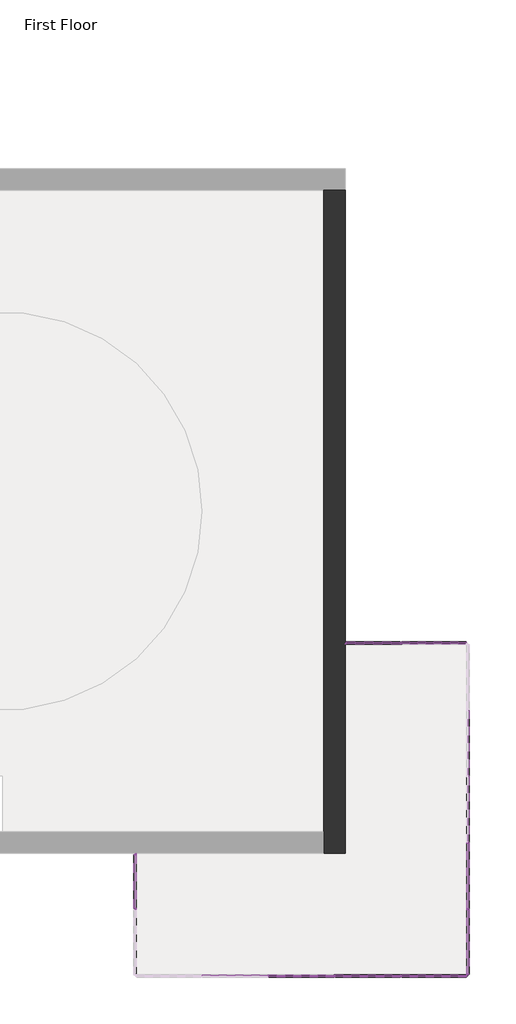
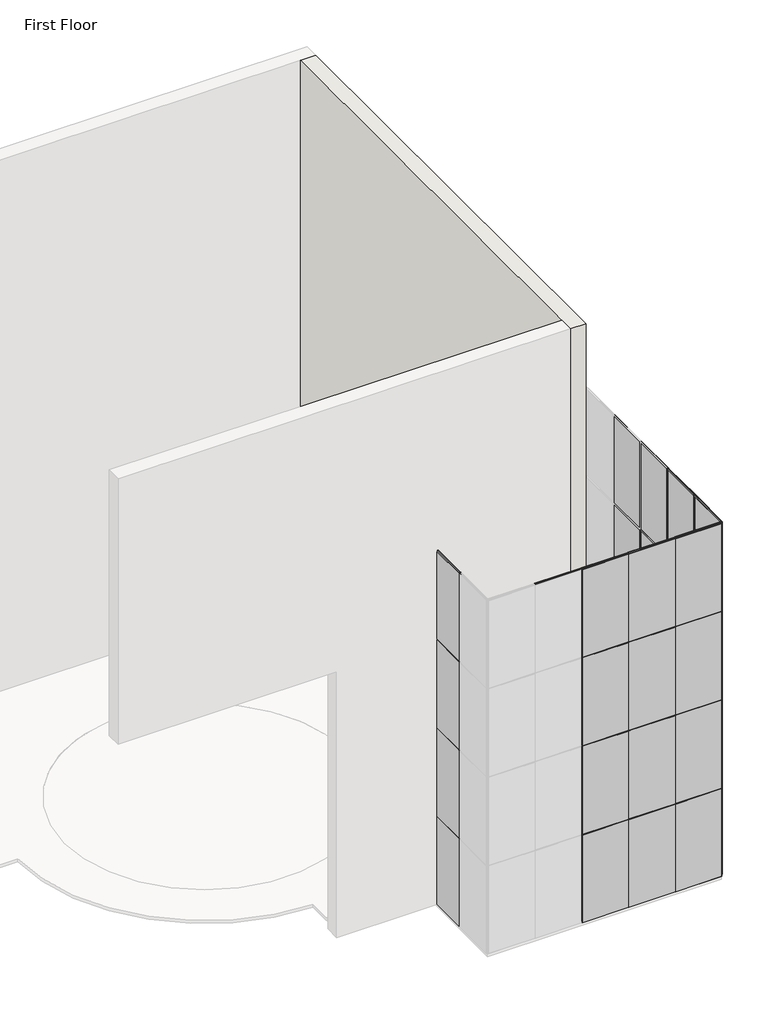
# One storey, part 2 of 4: 83 members, 40 plates, 1 wall.
"""IFC4 building model written with IfcOpenShell, lengths in millimetres."""

from ifc_helpers import new_model, si_unit, origin, place, context, project, spatial, faceted_brep, transform, mapped, element, save
from components import member_40ce1a5c, member_5e617a80, member_0d8d9af5, member_74941792, member_cbdb9076, member_7e523723, member_9fd3d903, member_6604d1e0, member_e0356dda, member_be0b070d, system_panel_glazed_9b7d687a, system_panel_glazed_3ccd4ad1, system_panel_glazed_9a901b4a, system_panel_glazed_ee91e337, system_panel_glazed_2d5e1d3d, system_panel_glazed_37964ea6, system_panel_glazed_a669fc9f, system_panel_glazed_51c864c8

model = new_model("IFC4")

# Units and contexts
model_context = context("Model", 3, world=origin())
ifc_project = project(units=[si_unit("LENGTHUNIT", "METRE", prefix="MILLI")], contexts=[model_context])

# Site, building, storey
site = spatial("IfcSite", under=ifc_project)
building = spatial("IfcBuilding", under=site)
storey = spatial("IfcBuildingStorey", under=building, Name="First Floor", Elevation=0.0)

# Members
placement = place(None, origin())
member_shape = member_40ce1a5c(model_context)
element("IfcMember", 1, ObjectType="Rectangular Mullion : 1\" Square", at=placement, inside=storey, context=model_context, shape_type="MappedRepresentation", body=[
    mapped(member_shape, transform((5418.7693843, -3733.9860776, 3048.0), x_axis=(0.0, 0.0, 1.0), y_axis=(0.0, 1.0, 0.0), z_axis=(-1.0, 0.0, 0.0))),
])
element("IfcMember", 2, ObjectType="Rectangular Mullion : 1\" Square", at=placement, inside=storey, context=model_context, shape_type="MappedRepresentation", body=[
    mapped(member_shape, transform((5418.7693843, -3733.9860776, 6096.0), x_axis=(0.0, 0.0, 1.0), y_axis=(0.0, 1.0, 0.0), z_axis=(-1.0, 0.0, 0.0))),
])
element("IfcMember", 3, ObjectType="Rectangular Mullion : 1\" Square", at=placement, inside=storey, context=model_context, shape_type="MappedRepresentation", body=[
    mapped(member_shape, transform((5418.7693843, -3733.9860776, 9144.0), x_axis=(0.0, 0.0, 1.0), y_axis=(0.0, 1.0, 0.0), z_axis=(-1.0, 0.0, 0.0))),
])
member_2_shape = member_5e617a80(model_context)
element("IfcMember", 4, ObjectType="Rectangular Mullion : 1\" Square", at=placement, inside=storey, context=model_context, shape_type="MappedRepresentation", body=[
    mapped(member_2_shape, transform((8171.4943843, -11353.9860776, 3048.0), x_axis=(0.0, 0.0, 1.0), y_axis=(0.0, -1.0, 0.0), z_axis=(1.0, 0.0, 0.0))),
])
element("IfcMember", 5, ObjectType="Rectangular Mullion : 1\" Square", at=placement, inside=storey, context=model_context, shape_type="MappedRepresentation", body=[
    mapped(member_2_shape, transform((8171.4943843, -11353.9860776, 6096.0), x_axis=(0.0, 0.0, 1.0), y_axis=(0.0, -1.0, 0.0), z_axis=(1.0, 0.0, 0.0))),
])
element("IfcMember", 6, ObjectType="Rectangular Mullion : 1\" Square", at=placement, inside=storey, context=model_context, shape_type="MappedRepresentation", body=[
    mapped(member_2_shape, transform((8171.4943843, -11353.9860776, 9144.0), x_axis=(0.0, 0.0, 1.0), y_axis=(0.0, -1.0, 0.0), z_axis=(1.0, 0.0, 0.0))),
])
element("IfcMember", 7, ObjectType="Rectangular Mullion : 1\" Square", at=placement, inside=storey, context=model_context, shape_type="MappedRepresentation", body=[
    mapped(member_2_shape, transform((8196.8943843, -9842.6860776, 3048.0), x_axis=(0.0, 0.0, 1.0), y_axis=(1.0, 0.0, 0.0), z_axis=(0.0, 1.0, 0.0))),
])
element("IfcMember", 8, ObjectType="Rectangular Mullion : 1\" Square", at=placement, inside=storey, context=model_context, shape_type="MappedRepresentation", body=[
    mapped(member_2_shape, transform((8196.8943843, -9842.6860776, 6096.0), x_axis=(0.0, 0.0, 1.0), y_axis=(1.0, 0.0, 0.0), z_axis=(0.0, 1.0, 0.0))),
])
element("IfcMember", 9, ObjectType="Rectangular Mullion : 1\" Square", at=placement, inside=storey, context=model_context, shape_type="MappedRepresentation", body=[
    mapped(member_2_shape, transform((8196.8943843, -9842.6860776, 9144.0), x_axis=(0.0, 0.0, 1.0), y_axis=(1.0, 0.0, 0.0), z_axis=(0.0, 1.0, 0.0))),
])
element("IfcMember", 10, ObjectType="Rectangular Mullion : 1\" Square", at=placement, inside=storey, context=model_context, shape_type="MappedRepresentation", body=[
    mapped(member_2_shape, transform((6685.5943843, -3733.9860776, 3048.0), x_axis=(0.0, 0.0, 1.0), y_axis=(0.0, 1.0, 0.0), z_axis=(-1.0, 0.0, 0.0))),
])
element("IfcMember", 11, ObjectType="Rectangular Mullion : 1\" Square", at=placement, inside=storey, context=model_context, shape_type="MappedRepresentation", body=[
    mapped(member_2_shape, transform((6685.5943843, -3733.9860776, 6096.0), x_axis=(0.0, 0.0, 1.0), y_axis=(0.0, 1.0, 0.0), z_axis=(-1.0, 0.0, 0.0))),
])
element("IfcMember", 12, ObjectType="Rectangular Mullion : 1\" Square", at=placement, inside=storey, context=model_context, shape_type="MappedRepresentation", body=[
    mapped(member_2_shape, transform((6685.5943843, -3733.9860776, 9144.0), x_axis=(0.0, 0.0, 1.0), y_axis=(0.0, 1.0, 0.0), z_axis=(-1.0, 0.0, 0.0))),
])
member_3_shape = member_0d8d9af5(model_context)
element("IfcMember", 13, ObjectType="Rectangular Mullion : 1\" Square", at=placement, inside=storey, context=model_context, shape_type="MappedRepresentation", body=[
    mapped(member_3_shape, transform((6660.1943843, -3733.9860776, 0.0), x_axis=(0.0, 0.0, -1.0), y_axis=(0.0, 1.0, 0.0), z_axis=(1.0, 0.0, 0.0))),
])
member_4_shape = member_74941792(model_context)
element("IfcMember", 14, ObjectType="Rectangular Mullion : 1\" Square", at=placement, inside=storey, context=model_context, shape_type="MappedRepresentation", body=[
    mapped(member_4_shape, transform((8171.4943843, -11353.9860776, 12192.0), x_axis=(0.0, 0.0, 1.0), y_axis=(0.0, -1.0, 0.0), z_axis=(1.0, 0.0, 0.0))),
])
element("IfcMember", 15, ObjectType="Rectangular Mullion : 1\" Square", at=placement, inside=storey, context=model_context, shape_type="MappedRepresentation", body=[
    mapped(member_4_shape, transform((8196.8943843, -9842.6860776, 12192.0), x_axis=(0.0, 0.0, 1.0), y_axis=(1.0, 0.0, 0.0), z_axis=(0.0, 1.0, 0.0))),
])
element("IfcMember", 16, ObjectType="Rectangular Mullion : 1\" Square", at=placement, inside=storey, context=model_context, shape_type="MappedRepresentation", body=[
    mapped(member_4_shape, transform((6685.5943843, -3733.9860776, 12192.0), x_axis=(0.0, 0.0, 1.0), y_axis=(0.0, 1.0, 0.0), z_axis=(-1.0, 0.0, 0.0))),
])
member_5_shape = member_cbdb9076(model_context)
element("IfcMember", 17, ObjectType="Rectangular Mullion : 1\" Square", at=placement, inside=storey, context=model_context, shape_type="MappedRepresentation", body=[
    mapped(member_5_shape, transform((576.8943843, -9826.8110776, 3048.0), x_axis=(0.0, -1.0, 0.0), y_axis=(-1.0, 0.0, 0.0), z_axis=(0.0, 0.0, -1.0))),
])
element("IfcMember", 18, ObjectType="Rectangular Mullion : 1\" Square", at=placement, inside=storey, context=model_context, shape_type="MappedRepresentation", body=[
    mapped(member_5_shape, transform((576.8943843, -9826.8110776, 6096.0), x_axis=(0.0, -1.0, 0.0), y_axis=(-1.0, 0.0, 0.0), z_axis=(0.0, 0.0, -1.0))),
])
element("IfcMember", 19, ObjectType="Rectangular Mullion : 1\" Square", at=placement, inside=storey, context=model_context, shape_type="MappedRepresentation", body=[
    mapped(member_5_shape, transform((5148.8943843, -11353.9860776, 3048.0), x_axis=(1.0, 0.0, 0.0), y_axis=(0.0, -1.0, 0.0), z_axis=(0.0, 0.0, -1.0))),
])
element("IfcMember", 20, ObjectType="Rectangular Mullion : 1\" Square", at=placement, inside=storey, context=model_context, shape_type="MappedRepresentation", body=[
    mapped(member_5_shape, transform((5148.8943843, -11353.9860776, 6096.0), x_axis=(1.0, 0.0, 0.0), y_axis=(0.0, -1.0, 0.0), z_axis=(0.0, 0.0, -1.0))),
])
element("IfcMember", 21, ObjectType="Rectangular Mullion : 1\" Square", at=placement, inside=storey, context=model_context, shape_type="MappedRepresentation", body=[
    mapped(member_5_shape, transform((6672.8943843, -11353.9860776, 3048.0), x_axis=(1.0, 0.0, 0.0), y_axis=(0.0, -1.0, 0.0), z_axis=(0.0, 0.0, -1.0))),
])
element("IfcMember", 22, ObjectType="Rectangular Mullion : 1\" Square", at=placement, inside=storey, context=model_context, shape_type="MappedRepresentation", body=[
    mapped(member_5_shape, transform((6672.8943843, -11353.9860776, 6096.0), x_axis=(1.0, 0.0, 0.0), y_axis=(0.0, -1.0, 0.0), z_axis=(0.0, 0.0, -1.0))),
])
element("IfcMember", 23, ObjectType="Rectangular Mullion : 1\" Square", at=placement, inside=storey, context=model_context, shape_type="MappedRepresentation", body=[
    mapped(member_5_shape, transform((8196.8943843, -8305.9860776, 6096.0), x_axis=(0.0, 1.0, 0.0), y_axis=(1.0, 0.0, 0.0), z_axis=(0.0, 0.0, -1.0))),
])
element("IfcMember", 24, ObjectType="Rectangular Mullion : 1\" Square", at=placement, inside=storey, context=model_context, shape_type="MappedRepresentation", body=[
    mapped(member_5_shape, transform((8196.8943843, -6781.9860776, 3048.0), x_axis=(0.0, 1.0, 0.0), y_axis=(1.0, 0.0, 0.0), z_axis=(0.0, 0.0, -1.0))),
])
element("IfcMember", 25, ObjectType="Rectangular Mullion : 1\" Square", at=placement, inside=storey, context=model_context, shape_type="MappedRepresentation", body=[
    mapped(member_5_shape, transform((8196.8943843, -6781.9860776, 6096.0), x_axis=(0.0, 1.0, 0.0), y_axis=(1.0, 0.0, 0.0), z_axis=(0.0, 0.0, -1.0))),
])
element("IfcMember", 26, ObjectType="Rectangular Mullion : 1\" Square", at=placement, inside=storey, context=model_context, shape_type="MappedRepresentation", body=[
    mapped(member_5_shape, transform((8196.8943843, -9829.9860776, 3048.0), x_axis=(0.0, 1.0, 0.0), y_axis=(1.0, 0.0, 0.0), z_axis=(0.0, 0.0, -1.0))),
])
element("IfcMember", 27, ObjectType="Rectangular Mullion : 1\" Square", at=placement, inside=storey, context=model_context, shape_type="MappedRepresentation", body=[
    mapped(member_5_shape, transform((8196.8943843, -9829.9860776, 6096.0), x_axis=(0.0, 1.0, 0.0), y_axis=(1.0, 0.0, 0.0), z_axis=(0.0, 0.0, -1.0))),
])
element("IfcMember", 28, ObjectType="Rectangular Mullion : 1\" Square", at=placement, inside=storey, context=model_context, shape_type="MappedRepresentation", body=[
    mapped(member_5_shape, transform((8196.8943843, -8305.9860776, 3048.0), x_axis=(0.0, 1.0, 0.0), y_axis=(1.0, 0.0, 0.0), z_axis=(0.0, 0.0, -1.0))),
])
element("IfcMember", 29, ObjectType="Rectangular Mullion : 1\" Square", at=placement, inside=storey, context=model_context, shape_type="MappedRepresentation", body=[
    mapped(member_5_shape, transform((6672.8943843, -3733.9860776, 3048.0), x_axis=(-1.0, 0.0, 0.0), y_axis=(0.0, 1.0, 0.0), z_axis=(0.0, 0.0, -1.0))),
])
element("IfcMember", 30, ObjectType="Rectangular Mullion : 1\" Square", at=placement, inside=storey, context=model_context, shape_type="MappedRepresentation", body=[
    mapped(member_5_shape, transform((6672.8943843, -3733.9860776, 6096.0), x_axis=(-1.0, 0.0, 0.0), y_axis=(0.0, 1.0, 0.0), z_axis=(0.0, 0.0, -1.0))),
])
element("IfcMember", 31, ObjectType="Rectangular Mullion : 1\" Square", at=placement, inside=storey, context=model_context, shape_type="MappedRepresentation", body=[
    mapped(member_5_shape, transform((576.8943843, -9826.8110776, 9144.0), x_axis=(0.0, -1.0, 0.0), y_axis=(-1.0, 0.0, 0.0), z_axis=(0.0, 0.0, -1.0))),
])
element("IfcMember", 32, ObjectType="Rectangular Mullion : 1\" Square", at=placement, inside=storey, context=model_context, shape_type="MappedRepresentation", body=[
    mapped(member_5_shape, transform((5148.8943843, -11353.9860776, 9144.0), x_axis=(1.0, 0.0, 0.0), y_axis=(0.0, -1.0, 0.0), z_axis=(0.0, 0.0, -1.0))),
])
element("IfcMember", 33, ObjectType="Rectangular Mullion : 1\" Square", at=placement, inside=storey, context=model_context, shape_type="MappedRepresentation", body=[
    mapped(member_5_shape, transform((6672.8943843, -11353.9860776, 9144.0), x_axis=(1.0, 0.0, 0.0), y_axis=(0.0, -1.0, 0.0), z_axis=(0.0, 0.0, -1.0))),
])
element("IfcMember", 34, ObjectType="Rectangular Mullion : 1\" Square", at=placement, inside=storey, context=model_context, shape_type="MappedRepresentation", body=[
    mapped(member_5_shape, transform((8196.8943843, -8305.9860776, 9144.0), x_axis=(0.0, 1.0, 0.0), y_axis=(1.0, 0.0, 0.0), z_axis=(0.0, 0.0, -1.0))),
])
element("IfcMember", 35, ObjectType="Rectangular Mullion : 1\" Square", at=placement, inside=storey, context=model_context, shape_type="MappedRepresentation", body=[
    mapped(member_5_shape, transform((8196.8943843, -9829.9860776, 9144.0), x_axis=(0.0, 1.0, 0.0), y_axis=(1.0, 0.0, 0.0), z_axis=(0.0, 0.0, -1.0))),
])
element("IfcMember", 36, ObjectType="Rectangular Mullion : 1\" Square", at=placement, inside=storey, context=model_context, shape_type="MappedRepresentation", body=[
    mapped(member_5_shape, transform((6672.8943843, -3733.9860776, 9144.0), x_axis=(-1.0, 0.0, 0.0), y_axis=(0.0, 1.0, 0.0), z_axis=(0.0, 0.0, -1.0))),
])
element("IfcMember", 37, ObjectType="Rectangular Mullion : 1\" Square", at=placement, inside=storey, context=model_context, shape_type="MappedRepresentation", body=[
    mapped(member_5_shape, transform((576.8943843, -9826.8110776, 0.0), x_axis=(0.0, -1.0, 0.0), y_axis=(-1.0, 0.0, 0.0), z_axis=(0.0, 0.0, -1.0))),
])
element("IfcMember", 38, ObjectType="Rectangular Mullion : 1\" Square", at=placement, inside=storey, context=model_context, shape_type="MappedRepresentation", body=[
    mapped(member_5_shape, transform((6672.8943843, -11353.9860776, 0.0), x_axis=(1.0, 0.0, 0.0), y_axis=(0.0, -1.0, 0.0), z_axis=(0.0, 0.0, -1.0))),
])
element("IfcMember", 39, ObjectType="Rectangular Mullion : 1\" Square", at=placement, inside=storey, context=model_context, shape_type="MappedRepresentation", body=[
    mapped(member_5_shape, transform((5148.8943843, -11353.9860776, 0.0), x_axis=(1.0, 0.0, 0.0), y_axis=(0.0, -1.0, 0.0), z_axis=(0.0, 0.0, -1.0))),
])
element("IfcMember", 40, ObjectType="Rectangular Mullion : 1\" Square", at=placement, inside=storey, context=model_context, shape_type="MappedRepresentation", body=[
    mapped(member_5_shape, transform((8196.8943843, -9829.9860776, 0.0), x_axis=(0.0, 1.0, 0.0), y_axis=(1.0, 0.0, 0.0), z_axis=(0.0, 0.0, -1.0))),
])
element("IfcMember", 41, ObjectType="Rectangular Mullion : 1\" Square", at=placement, inside=storey, context=model_context, shape_type="MappedRepresentation", body=[
    mapped(member_5_shape, transform((8196.8943843, -8305.9860776, 0.0), x_axis=(0.0, 1.0, 0.0), y_axis=(1.0, 0.0, 0.0), z_axis=(0.0, 0.0, -1.0))),
])
element("IfcMember", 42, ObjectType="Rectangular Mullion : 1\" Square", at=placement, inside=storey, context=model_context, shape_type="MappedRepresentation", body=[
    mapped(member_5_shape, transform((6672.8943843, -3733.9860776, 0.0), x_axis=(-1.0, 0.0, 0.0), y_axis=(0.0, 1.0, 0.0), z_axis=(0.0, 0.0, -1.0))),
])
element("IfcMember", 43, ObjectType="Rectangular Mullion : 1\" Square", at=placement, inside=storey, context=model_context, shape_type="MappedRepresentation", body=[
    mapped(member_4_shape, transform((6685.5943843, -11353.9860776, 0.0), x_axis=(0.0, 0.0, -1.0), y_axis=(0.0, -1.0, 0.0), z_axis=(-1.0, 0.0, 0.0))),
])
element("IfcMember", 44, ObjectType="Rectangular Mullion : 1\" Square", at=placement, inside=storey, context=model_context, shape_type="MappedRepresentation", body=[
    mapped(member_4_shape, transform((8196.8943843, -11328.5860776, 0.0), x_axis=(0.0, 0.0, -1.0), y_axis=(1.0, 0.0, 0.0), z_axis=(0.0, -1.0, 0.0))),
])
element("IfcMember", 45, ObjectType="Rectangular Mullion : 1\" Square", at=placement, inside=storey, context=model_context, shape_type="MappedRepresentation", body=[
    mapped(member_3_shape, transform((5418.7693843, -3733.9860776, 12192.0), x_axis=(0.0, 0.0, 1.0), y_axis=(0.0, 1.0, 0.0), z_axis=(-1.0, 0.0, 0.0))),
])
member_6_shape = member_7e523723(model_context)
element("IfcMember", 46, ObjectType="Rectangular Mullion : 1\" Square", at=placement, inside=storey, context=model_context, shape_type="MappedRepresentation", body=[
    mapped(member_6_shape, transform((576.8943843, -8550.4610776, 12192.0), x_axis=(0.0, 1.0, 0.0), y_axis=(-1.0, 0.0, 0.0), z_axis=(0.0, 0.0, 1.0))),
])
element("IfcMember", 47, ObjectType="Rectangular Mullion : 1\" Square", at=placement, inside=storey, context=model_context, shape_type="MappedRepresentation", body=[
    mapped(member_6_shape, transform((8196.8943843, -11353.9860776, 12192.0), x_axis=(0.0, -1.0, 0.0), y_axis=(1.0, 0.0, 0.0), z_axis=(0.0, 0.0, 1.0))),
])
element("IfcMember", 48, ObjectType="Rectangular Mullion : 1\" Square", at=placement, inside=storey, context=model_context, shape_type="MappedRepresentation", body=[
    mapped(member_6_shape, transform((8196.8943843, -11353.9860776, 3048.0), x_axis=(1.0, 0.0, 0.0), y_axis=(0.0, -1.0, 0.0), z_axis=(0.0, 0.0, -1.0))),
])
element("IfcMember", 49, ObjectType="Rectangular Mullion : 1\" Square", at=placement, inside=storey, context=model_context, shape_type="MappedRepresentation", body=[
    mapped(member_6_shape, transform((8196.8943843, -11353.9860776, 6096.0), x_axis=(1.0, 0.0, 0.0), y_axis=(0.0, -1.0, 0.0), z_axis=(0.0, 0.0, -1.0))),
])
element("IfcMember", 50, ObjectType="Rectangular Mullion : 1\" Square", at=placement, inside=storey, context=model_context, shape_type="MappedRepresentation", body=[
    mapped(member_6_shape, transform((5393.3693843, -3733.9860776, 3048.0), x_axis=(-1.0, 0.0, 0.0), y_axis=(0.0, 1.0, 0.0), z_axis=(0.0, 0.0, -1.0))),
])
element("IfcMember", 51, ObjectType="Rectangular Mullion : 1\" Square", at=placement, inside=storey, context=model_context, shape_type="MappedRepresentation", body=[
    mapped(member_6_shape, transform((5393.3693843, -3733.9860776, 6096.0), x_axis=(-1.0, 0.0, 0.0), y_axis=(0.0, 1.0, 0.0), z_axis=(0.0, 0.0, -1.0))),
])
element("IfcMember", 52, ObjectType="Rectangular Mullion : 1\" Square", at=placement, inside=storey, context=model_context, shape_type="MappedRepresentation", body=[
    mapped(member_6_shape, transform((8196.8943843, -11353.9860776, 9144.0), x_axis=(1.0, 0.0, 0.0), y_axis=(0.0, -1.0, 0.0), z_axis=(0.0, 0.0, -1.0))),
])
element("IfcMember", 53, ObjectType="Rectangular Mullion : 1\" Square", at=placement, inside=storey, context=model_context, shape_type="MappedRepresentation", body=[
    mapped(member_6_shape, transform((5393.3693843, -3733.9860776, 9144.0), x_axis=(-1.0, 0.0, 0.0), y_axis=(0.0, 1.0, 0.0), z_axis=(0.0, 0.0, -1.0))),
])
element("IfcMember", 54, ObjectType="Rectangular Mullion : 1\" Square", at=placement, inside=storey, context=model_context, shape_type="MappedRepresentation", body=[
    mapped(member_6_shape, transform((576.8943843, -8550.4610776, 3048.0), x_axis=(0.0, 1.0, 0.0), y_axis=(-1.0, 0.0, 0.0), z_axis=(0.0, 0.0, 1.0))),
])
element("IfcMember", 55, ObjectType="Rectangular Mullion : 1\" Square", at=placement, inside=storey, context=model_context, shape_type="MappedRepresentation", body=[
    mapped(member_6_shape, transform((8196.8943843, -11353.9860776, 3048.0), x_axis=(0.0, -1.0, 0.0), y_axis=(1.0, 0.0, 0.0), z_axis=(0.0, 0.0, 1.0))),
])
element("IfcMember", 56, ObjectType="Rectangular Mullion : 1\" Square", at=placement, inside=storey, context=model_context, shape_type="MappedRepresentation", body=[
    mapped(member_6_shape, transform((576.8943843, -8550.4610776, 6096.0), x_axis=(0.0, 1.0, 0.0), y_axis=(-1.0, 0.0, 0.0), z_axis=(0.0, 0.0, 1.0))),
])
element("IfcMember", 57, ObjectType="Rectangular Mullion : 1\" Square", at=placement, inside=storey, context=model_context, shape_type="MappedRepresentation", body=[
    mapped(member_6_shape, transform((576.8943843, -8550.4610776, 9144.0), x_axis=(0.0, 1.0, 0.0), y_axis=(-1.0, 0.0, 0.0), z_axis=(0.0, 0.0, 1.0))),
])
element("IfcMember", 58, ObjectType="Rectangular Mullion : 1\" Square", at=placement, inside=storey, context=model_context, shape_type="MappedRepresentation", body=[
    mapped(member_6_shape, transform((8196.8943843, -11353.9860776, 6096.0), x_axis=(0.0, -1.0, 0.0), y_axis=(1.0, 0.0, 0.0), z_axis=(0.0, 0.0, 1.0))),
])
element("IfcMember", 59, ObjectType="Rectangular Mullion : 1\" Square", at=placement, inside=storey, context=model_context, shape_type="MappedRepresentation", body=[
    mapped(member_6_shape, transform((8196.8943843, -11353.9860776, 9144.0), x_axis=(0.0, -1.0, 0.0), y_axis=(1.0, 0.0, 0.0), z_axis=(0.0, 0.0, 1.0))),
])
element("IfcMember", 60, ObjectType="Rectangular Mullion : 1\" Square", at=placement, inside=storey, context=model_context, shape_type="MappedRepresentation", body=[
    mapped(member_6_shape, transform((8196.8943843, -11353.9860776, 0.0), x_axis=(1.0, 0.0, 0.0), y_axis=(0.0, -1.0, 0.0), z_axis=(0.0, 0.0, -1.0))),
])
element("IfcMember", 61, ObjectType="Rectangular Mullion : 1\" Square", at=placement, inside=storey, context=model_context, shape_type="MappedRepresentation", body=[
    mapped(member_6_shape, transform((5393.3693843, -3733.9860776, 0.0), x_axis=(-1.0, 0.0, 0.0), y_axis=(0.0, 1.0, 0.0), z_axis=(0.0, 0.0, -1.0))),
])
member_7_shape = member_9fd3d903(model_context)
element("IfcMember", 62, ObjectType="Rectangular Mullion : 1\" Square", at=placement, inside=storey, context=model_context, shape_type="MappedRepresentation", body=[
    mapped(member_7_shape, transform((5136.1943843, -11353.9860776, 3048.0), x_axis=(0.0, 0.0, 1.0), y_axis=(0.0, -1.0, 0.0), z_axis=(1.0, 0.0, 0.0))),
])
element("IfcMember", 63, ObjectType="Rectangular Mullion : 1\" Square", at=placement, inside=storey, context=model_context, shape_type="MappedRepresentation", body=[
    mapped(member_7_shape, transform((6660.1943843, -11353.9860776, 3048.0), x_axis=(0.0, 0.0, 1.0), y_axis=(0.0, -1.0, 0.0), z_axis=(1.0, 0.0, 0.0))),
])
element("IfcMember", 64, ObjectType="Rectangular Mullion : 1\" Square", at=placement, inside=storey, context=model_context, shape_type="MappedRepresentation", body=[
    mapped(member_7_shape, transform((5136.1943843, -11353.9860776, 6096.0), x_axis=(0.0, 0.0, 1.0), y_axis=(0.0, -1.0, 0.0), z_axis=(0.9999999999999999, 0.0, 0.0))),
])
element("IfcMember", 65, ObjectType="Rectangular Mullion : 1\" Square", at=placement, inside=storey, context=model_context, shape_type="MappedRepresentation", body=[
    mapped(member_7_shape, transform((6660.1943843, -11353.9860776, 6096.0), x_axis=(0.0, 0.0, 1.0), y_axis=(0.0, -1.0, 0.0), z_axis=(1.0, 0.0, 0.0))),
])
element("IfcMember", 66, ObjectType="Rectangular Mullion : 1\" Square", at=placement, inside=storey, context=model_context, shape_type="MappedRepresentation", body=[
    mapped(member_7_shape, transform((5136.1943843, -11353.9860776, 9144.0), x_axis=(0.0, 0.0, 1.0), y_axis=(0.0, -1.0, 0.0), z_axis=(1.0, 0.0, 0.0))),
])
element("IfcMember", 67, ObjectType="Rectangular Mullion : 1\" Square", at=placement, inside=storey, context=model_context, shape_type="MappedRepresentation", body=[
    mapped(member_7_shape, transform((6660.1943843, -11353.9860776, 9144.0), x_axis=(0.0, 0.0, 1.0), y_axis=(0.0, -1.0, 0.0), z_axis=(1.0, 0.0, 0.0))),
])
element("IfcMember", 68, ObjectType="Rectangular Mullion : 1\" Square", at=placement, inside=storey, context=model_context, shape_type="MappedRepresentation", body=[
    mapped(member_7_shape, transform((8196.8943843, -8318.6860776, 3048.0), x_axis=(0.0, 0.0, 1.0), y_axis=(1.0, 0.0, 0.0), z_axis=(0.0, 1.0, 0.0))),
])
element("IfcMember", 69, ObjectType="Rectangular Mullion : 1\" Square", at=placement, inside=storey, context=model_context, shape_type="MappedRepresentation", body=[
    mapped(member_7_shape, transform((8196.8943843, -8318.6860776, 6096.0), x_axis=(0.0, 0.0, 1.0), y_axis=(1.0, 0.0, 0.0), z_axis=(0.0, 1.0, 0.0))),
])
element("IfcMember", 70, ObjectType="Rectangular Mullion : 1\" Square", at=placement, inside=storey, context=model_context, shape_type="MappedRepresentation", body=[
    mapped(member_7_shape, transform((8196.8943843, -8318.6860776, 9144.0), x_axis=(0.0, 0.0, 1.0), y_axis=(1.0, 0.0, 0.0), z_axis=(0.0, 1.0, 0.0))),
])
member_8_shape = member_6604d1e0(model_context)
element("IfcMember", 71, ObjectType="Rectangular Mullion : 1\" Square", at=placement, inside=storey, context=model_context, shape_type="MappedRepresentation", body=[
    mapped(member_8_shape, transform((6660.1943843, -11353.9860776, 12192.0), x_axis=(0.0, 0.0, 1.0), y_axis=(0.0, -1.0, 0.0), z_axis=(1.0, 0.0, 0.0))),
])
element("IfcMember", 72, ObjectType="Rectangular Mullion : 1\" Square", at=placement, inside=storey, context=model_context, shape_type="MappedRepresentation", body=[
    mapped(member_8_shape, transform((3612.1943843, -11353.9860776, 12192.0), x_axis=(0.0, 0.0, 1.0), y_axis=(0.0, -1.0, 0.0), z_axis=(1.0, 0.0, 0.0))),
])
element("IfcMember", 73, ObjectType="Rectangular Mullion : 1\" Square", at=placement, inside=storey, context=model_context, shape_type="MappedRepresentation", body=[
    mapped(member_8_shape, transform((5136.1943843, -11353.9860776, 12192.0), x_axis=(0.0, 0.0, 1.0), y_axis=(0.0, -1.0, 0.0), z_axis=(1.0, 0.0, 0.0))),
])
element("IfcMember", 74, ObjectType="Rectangular Mullion : 1\" Square", at=placement, inside=storey, context=model_context, shape_type="MappedRepresentation", body=[
    mapped(member_8_shape, transform((8196.8943843, -8318.6860776, 12192.0), x_axis=(0.0, 0.0, 1.0), y_axis=(1.0, 0.0, 0.0), z_axis=(0.0, 1.0, 0.0))),
])
element("IfcMember", 75, ObjectType="Rectangular Mullion : 1\" Square", at=placement, inside=storey, context=model_context, shape_type="MappedRepresentation", body=[
    mapped(member_8_shape, transform((576.8943843, -9839.5110776, 0.0), x_axis=(0.0, 0.0, -1.0), y_axis=(-1.0, 0.0, 0.0), z_axis=(0.0, 1.0, 0.0))),
])
element("IfcMember", 76, ObjectType="Rectangular Mullion : 1\" Square", at=placement, inside=storey, context=model_context, shape_type="MappedRepresentation", body=[
    mapped(member_8_shape, transform((5161.5943843, -11353.9860776, 0.0), x_axis=(0.0, 0.0, -1.0), y_axis=(0.0, -1.0, 0.0), z_axis=(-1.0, 0.0, 0.0))),
])
element("IfcMember", 77, ObjectType="Rectangular Mullion : 1\" Square", at=placement, inside=storey, context=model_context, shape_type="MappedRepresentation", body=[
    mapped(member_8_shape, transform((8196.8943843, -9817.2860776, 0.0), x_axis=(0.0, 0.0, -1.0), y_axis=(1.0, 0.0, 0.0), z_axis=(0.0, -1.0, 0.0))),
])
element("IfcMember", 78, ObjectType="Rectangular Mullion : 1\" Square", at=placement, inside=storey, context=model_context, shape_type="MappedRepresentation", body=[
    mapped(member_8_shape, transform((8196.8943843, -8293.2860776, 0.0), x_axis=(0.0, 0.0, -1.0), y_axis=(1.0, 0.0, 0.0), z_axis=(0.0, -1.0, 0.0))),
])
member_9_shape = member_e0356dda(model_context)
element("IfcMember", 79, ObjectType="Rectangular Mullion : 1\" Square", at=placement, inside=storey, context=model_context, shape_type="MappedRepresentation", body=[
    mapped(member_9_shape, transform((576.8943843, -9814.1110776, 3048.0), x_axis=(0.0, 0.0, 1.0), y_axis=(-1.0, 0.0, 0.0), z_axis=(0.0, -1.0, 0.0))),
])
element("IfcMember", 80, ObjectType="Rectangular Mullion : 1\" Square", at=placement, inside=storey, context=model_context, shape_type="MappedRepresentation", body=[
    mapped(member_9_shape, transform((576.8943843, -9814.1110776, 6096.0), x_axis=(0.0, 0.0, 1.0), y_axis=(-1.0, 0.0, 0.0), z_axis=(0.0, -1.0, 0.0))),
])
element("IfcMember", 81, ObjectType="Rectangular Mullion : 1\" Square", at=placement, inside=storey, context=model_context, shape_type="MappedRepresentation", body=[
    mapped(member_9_shape, transform((576.8943843, -9814.1110776, 9144.0), x_axis=(0.0, 0.0, 1.0), y_axis=(-1.0, 0.0, 0.0), z_axis=(0.0, -1.0, 0.0))),
])
member_10_shape = member_be0b070d(model_context)
element("IfcMember", 82, ObjectType="Rectangular Mullion : 1\" Square", at=placement, inside=storey, context=model_context, shape_type="MappedRepresentation", body=[
    mapped(member_10_shape, transform((576.8943843, -9814.1110776, 12192.0), x_axis=(0.0, 0.0, 1.0), y_axis=(-1.0, 0.0, 0.0), z_axis=(0.0, -1.0, 0.0))),
])
element("IfcMember", 83, ObjectType="Rectangular Mullion : 1\" Square", at=placement, inside=storey, context=model_context, shape_type="MappedRepresentation", body=[
    mapped(member_10_shape, transform((576.8943843, -8575.8610776, 0.0), x_axis=(0.0, 0.0, -1.0), y_axis=(-1.0, 0.0, 0.0), z_axis=(0.0, 1.0, 0.0))),
])

# Plates
system_panel_glazed_shape = system_panel_glazed_9b7d687a(model_context)
element("IfcPlate", 84, ObjectType="System Panel : Glazed", at=placement, inside=storey, context=model_context, shape_type="MappedRepresentation", body=[
    mapped(system_panel_glazed_shape, transform((7428.5443843, -11353.9860776, 25.4), x_axis=(1.0, 0.0, 0.0), y_axis=(0.0, 1.0, 0.0), z_axis=(0.0, 0.0, 1.0))),
])
element("IfcPlate", 85, ObjectType="System Panel : Glazed", at=placement, inside=storey, context=model_context, shape_type="MappedRepresentation", body=[
    mapped(system_panel_glazed_shape, transform((7428.5443843, -11353.9860776, 9156.7), x_axis=(1.0, 0.0, 0.0), y_axis=(0.0, 1.0, 0.0), z_axis=(0.0, 0.0, 1.0))),
])
element("IfcPlate", 86, ObjectType="System Panel : Glazed", at=placement, inside=storey, context=model_context, shape_type="MappedRepresentation", body=[
    mapped(system_panel_glazed_shape, transform((8196.8943843, -10585.6360776, 25.4), x_axis=(0.0, 1.0, 0.0), y_axis=(-1.0, 0.0, 0.0), z_axis=(0.0, 0.0, 1.0))),
])
element("IfcPlate", 87, ObjectType="System Panel : Glazed", at=placement, inside=storey, context=model_context, shape_type="MappedRepresentation", body=[
    mapped(system_panel_glazed_shape, transform((8196.8943843, -10585.6360776, 9156.7), x_axis=(0.0, 1.0, 0.0), y_axis=(-1.0, 0.0, 0.0), z_axis=(0.0, 0.0, 1.0))),
])
element("IfcPlate", 88, ObjectType="System Panel : Glazed", at=placement, inside=storey, context=model_context, shape_type="MappedRepresentation", body=[
    mapped(system_panel_glazed_shape, transform((7428.5443843, -3733.9860776, 25.4), x_axis=(-1.0, 0.0, 0.0), y_axis=(0.0, -1.0, 0.0), z_axis=(0.0, 0.0, 1.0))),
])
element("IfcPlate", 89, ObjectType="System Panel : Glazed", at=placement, inside=storey, context=model_context, shape_type="MappedRepresentation", body=[
    mapped(system_panel_glazed_shape, transform((7428.5443843, -3733.9860776, 9156.7), x_axis=(-1.0, 0.0, 0.0), y_axis=(0.0, -1.0, 0.0), z_axis=(0.0, 0.0, 1.0))),
])
system_panel_glazed_2_shape = system_panel_glazed_3ccd4ad1(model_context)
element("IfcPlate", 90, ObjectType="System Panel : Glazed", at=placement, inside=storey, context=model_context, shape_type="MappedRepresentation", body=[
    mapped(system_panel_glazed_2_shape, transform((6039.4818843, -3733.9860776, 25.4), x_axis=(-1.0, 0.0, 0.0), y_axis=(0.0, -1.0, 0.0), z_axis=(0.0, 0.0, 1.0))),
])
element("IfcPlate", 91, ObjectType="System Panel : Glazed", at=placement, inside=storey, context=model_context, shape_type="MappedRepresentation", body=[
    mapped(system_panel_glazed_2_shape, transform((6039.4818843, -3733.9860776, 9156.7), x_axis=(-1.0, 0.0, 0.0), y_axis=(0.0, -1.0, 0.0), z_axis=(0.0, 0.0, 1.0))),
])
system_panel_glazed_3_shape = system_panel_glazed_9a901b4a(model_context)
element("IfcPlate", 92, ObjectType="System Panel : Glazed", at=placement, inside=storey, context=model_context, shape_type="MappedRepresentation", body=[
    mapped(system_panel_glazed_3_shape, transform((7428.5443843, -11353.9860776, 3060.7), x_axis=(1.0, 0.0, 0.0), y_axis=(0.0, 1.0, 0.0), z_axis=(0.0, 0.0, 1.0))),
])
element("IfcPlate", 93, ObjectType="System Panel : Glazed", at=placement, inside=storey, context=model_context, shape_type="MappedRepresentation", body=[
    mapped(system_panel_glazed_3_shape, transform((7428.5443843, -11353.9860776, 6108.7), x_axis=(1.0, 0.0, 0.0), y_axis=(0.0, 1.0, 0.0), z_axis=(0.0, 0.0, 1.0))),
])
element("IfcPlate", 94, ObjectType="System Panel : Glazed", at=placement, inside=storey, context=model_context, shape_type="MappedRepresentation", body=[
    mapped(system_panel_glazed_3_shape, transform((8196.8943843, -10585.6360776, 3060.7), x_axis=(0.0, 1.0, 0.0), y_axis=(-1.0, 0.0, 0.0), z_axis=(0.0, 0.0, 1.0))),
])
element("IfcPlate", 95, ObjectType="System Panel : Glazed", at=placement, inside=storey, context=model_context, shape_type="MappedRepresentation", body=[
    mapped(system_panel_glazed_3_shape, transform((8196.8943843, -10585.6360776, 6108.7), x_axis=(0.0, 1.0, 0.0), y_axis=(-1.0, 0.0, 0.0), z_axis=(0.0, 0.0, 1.0))),
])
element("IfcPlate", 96, ObjectType="System Panel : Glazed", at=placement, inside=storey, context=model_context, shape_type="MappedRepresentation", body=[
    mapped(system_panel_glazed_3_shape, transform((7428.5443843, -3733.9860776, 3060.7), x_axis=(-1.0, 0.0, 0.0), y_axis=(0.0, -1.0, 0.0), z_axis=(0.0, 0.0, 1.0))),
])
element("IfcPlate", 97, ObjectType="System Panel : Glazed", at=placement, inside=storey, context=model_context, shape_type="MappedRepresentation", body=[
    mapped(system_panel_glazed_3_shape, transform((7428.5443843, -3733.9860776, 6108.7), x_axis=(-1.0, 0.0, 0.0), y_axis=(0.0, -1.0, 0.0), z_axis=(0.0, 0.0, 1.0))),
])
system_panel_glazed_4_shape = system_panel_glazed_ee91e337(model_context)
element("IfcPlate", 98, ObjectType="System Panel : Glazed", at=placement, inside=storey, context=model_context, shape_type="MappedRepresentation", body=[
    mapped(system_panel_glazed_4_shape, transform((6039.4818843, -3733.9860776, 3060.7), x_axis=(-1.0, 0.0, 0.0), y_axis=(0.0, -1.0, 0.0), z_axis=(0.0, 0.0, 1.0))),
])
element("IfcPlate", 99, ObjectType="System Panel : Glazed", at=placement, inside=storey, context=model_context, shape_type="MappedRepresentation", body=[
    mapped(system_panel_glazed_4_shape, transform((6039.4818843, -3733.9860776, 6108.7), x_axis=(-1.0, 0.0, 0.0), y_axis=(0.0, -1.0, 0.0), z_axis=(0.0, 0.0, 1.0))),
])
system_panel_glazed_5_shape = system_panel_glazed_2d5e1d3d(model_context)
element("IfcPlate", 100, ObjectType="System Panel : Glazed", at=placement, inside=storey, context=model_context, shape_type="MappedRepresentation", body=[
    mapped(system_panel_glazed_5_shape, transform((4386.8943843, -11353.9860776, 25.4), x_axis=(1.0, 0.0, 0.0), y_axis=(0.0, 1.0, 0.0), z_axis=(0.0, 0.0, 1.0))),
])
element("IfcPlate", 101, ObjectType="System Panel : Glazed", at=placement, inside=storey, context=model_context, shape_type="MappedRepresentation", body=[
    mapped(system_panel_glazed_5_shape, transform((5910.8943843, -11353.9860776, 25.4), x_axis=(1.0, 0.0, 0.0), y_axis=(0.0, 1.0, 0.0), z_axis=(0.0, 0.0, 1.0))),
])
element("IfcPlate", 102, ObjectType="System Panel : Glazed", at=placement, inside=storey, context=model_context, shape_type="MappedRepresentation", body=[
    mapped(system_panel_glazed_5_shape, transform((4386.8943843, -11353.9860776, 9156.7), x_axis=(1.0, 0.0, 0.0), y_axis=(0.0, 1.0, 0.0), z_axis=(0.0, 0.0, 1.0))),
])
element("IfcPlate", 103, ObjectType="System Panel : Glazed", at=placement, inside=storey, context=model_context, shape_type="MappedRepresentation", body=[
    mapped(system_panel_glazed_5_shape, transform((5910.8943843, -11353.9860776, 9156.7), x_axis=(1.0, 0.0, 0.0), y_axis=(0.0, 1.0, 0.0), z_axis=(0.0, 0.0, 1.0))),
])
element("IfcPlate", 104, ObjectType="System Panel : Glazed", at=placement, inside=storey, context=model_context, shape_type="MappedRepresentation", body=[
    mapped(system_panel_glazed_5_shape, transform((8196.8943843, -9067.9860776, 25.4), x_axis=(0.0, 1.0, 0.0), y_axis=(-1.0, 0.0, 0.0), z_axis=(0.0, 0.0, 1.0))),
])
element("IfcPlate", 105, ObjectType="System Panel : Glazed", at=placement, inside=storey, context=model_context, shape_type="MappedRepresentation", body=[
    mapped(system_panel_glazed_5_shape, transform((8196.8943843, -7543.9860776, 25.4), x_axis=(0.0, 1.0, 0.0), y_axis=(-1.0, 0.0, 0.0), z_axis=(0.0, 0.0, 1.0))),
])
element("IfcPlate", 106, ObjectType="System Panel : Glazed", at=placement, inside=storey, context=model_context, shape_type="MappedRepresentation", body=[
    mapped(system_panel_glazed_5_shape, transform((8196.8943843, -6019.9860776, 25.4), x_axis=(0.0, 1.0, 0.0), y_axis=(-1.0, 0.0, 0.0), z_axis=(0.0, 0.0, 1.0))),
])
element("IfcPlate", 107, ObjectType="System Panel : Glazed", at=placement, inside=storey, context=model_context, shape_type="MappedRepresentation", body=[
    mapped(system_panel_glazed_5_shape, transform((8196.8943843, -9067.9860776, 9156.7), x_axis=(0.0, 1.0, 0.0), y_axis=(-1.0, 0.0, 0.0), z_axis=(0.0, 0.0, 1.0))),
])
element("IfcPlate", 108, ObjectType="System Panel : Glazed", at=placement, inside=storey, context=model_context, shape_type="MappedRepresentation", body=[
    mapped(system_panel_glazed_5_shape, transform((8196.8943843, -7543.9860776, 9156.7), x_axis=(0.0, 1.0, 0.0), y_axis=(-1.0, 0.0, 0.0), z_axis=(0.0, 0.0, 1.0))),
])
element("IfcPlate", 109, ObjectType="System Panel : Glazed", at=placement, inside=storey, context=model_context, shape_type="MappedRepresentation", body=[
    mapped(system_panel_glazed_5_shape, transform((8196.8943843, -6019.9860776, 9156.7), x_axis=(0.0, 1.0, 0.0), y_axis=(-1.0, 0.0, 0.0), z_axis=(0.0, 0.0, 1.0))),
])
system_panel_glazed_6_shape = system_panel_glazed_37964ea6(model_context)
element("IfcPlate", 110, ObjectType="System Panel : Glazed", at=placement, inside=storey, context=model_context, shape_type="MappedRepresentation", body=[
    mapped(system_panel_glazed_6_shape, transform((4386.8943843, -11353.9860776, 3060.7), x_axis=(1.0, 0.0, 0.0), y_axis=(0.0, 1.0, 0.0), z_axis=(0.0, 0.0, 1.0))),
])
element("IfcPlate", 111, ObjectType="System Panel : Glazed", at=placement, inside=storey, context=model_context, shape_type="MappedRepresentation", body=[
    mapped(system_panel_glazed_6_shape, transform((5910.8943843, -11353.9860776, 3060.7), x_axis=(1.0, 0.0, 0.0), y_axis=(0.0, 1.0, 0.0), z_axis=(0.0, 0.0, 1.0))),
])
element("IfcPlate", 112, ObjectType="System Panel : Glazed", at=placement, inside=storey, context=model_context, shape_type="MappedRepresentation", body=[
    mapped(system_panel_glazed_6_shape, transform((4386.8943843, -11353.9860776, 6108.7), x_axis=(1.0, 0.0, 0.0), y_axis=(0.0, 1.0, 0.0), z_axis=(0.0, 0.0, 1.0))),
])
element("IfcPlate", 113, ObjectType="System Panel : Glazed", at=placement, inside=storey, context=model_context, shape_type="MappedRepresentation", body=[
    mapped(system_panel_glazed_6_shape, transform((5910.8943843, -11353.9860776, 6108.7), x_axis=(1.0, 0.0, 0.0), y_axis=(0.0, 1.0, 0.0), z_axis=(0.0, 0.0, 1.0))),
])
element("IfcPlate", 114, ObjectType="System Panel : Glazed", at=placement, inside=storey, context=model_context, shape_type="MappedRepresentation", body=[
    mapped(system_panel_glazed_6_shape, transform((8196.8943843, -9067.9860776, 3060.7), x_axis=(0.0, 1.0, 0.0), y_axis=(-1.0, 0.0, 0.0), z_axis=(0.0, 0.0, 1.0))),
])
element("IfcPlate", 115, ObjectType="System Panel : Glazed", at=placement, inside=storey, context=model_context, shape_type="MappedRepresentation", body=[
    mapped(system_panel_glazed_6_shape, transform((8196.8943843, -7543.9860776, 3060.7), x_axis=(0.0, 1.0, 0.0), y_axis=(-1.0, 0.0, 0.0), z_axis=(0.0, 0.0, 1.0))),
])
element("IfcPlate", 116, ObjectType="System Panel : Glazed", at=placement, inside=storey, context=model_context, shape_type="MappedRepresentation", body=[
    mapped(system_panel_glazed_6_shape, transform((8196.8943843, -6019.9860776, 3060.7), x_axis=(0.0, 1.0, 0.0), y_axis=(-1.0, 0.0, 0.0), z_axis=(0.0, 0.0, 1.0))),
])
element("IfcPlate", 117, ObjectType="System Panel : Glazed", at=placement, inside=storey, context=model_context, shape_type="MappedRepresentation", body=[
    mapped(system_panel_glazed_6_shape, transform((8196.8943843, -9067.9860776, 6108.7), x_axis=(0.0, 1.0, 0.0), y_axis=(-1.0, 0.0, 0.0), z_axis=(0.0, 0.0, 1.0))),
])
element("IfcPlate", 118, ObjectType="System Panel : Glazed", at=placement, inside=storey, context=model_context, shape_type="MappedRepresentation", body=[
    mapped(system_panel_glazed_6_shape, transform((8196.8943843, -7543.9860776, 6108.7), x_axis=(0.0, 1.0, 0.0), y_axis=(-1.0, 0.0, 0.0), z_axis=(0.0, 0.0, 1.0))),
])
element("IfcPlate", 119, ObjectType="System Panel : Glazed", at=placement, inside=storey, context=model_context, shape_type="MappedRepresentation", body=[
    mapped(system_panel_glazed_6_shape, transform((8196.8943843, -6019.9860776, 6108.7), x_axis=(0.0, 1.0, 0.0), y_axis=(-1.0, 0.0, 0.0), z_axis=(0.0, 0.0, 1.0))),
])
system_panel_glazed_7_shape = system_panel_glazed_a669fc9f(model_context)
element("IfcPlate", 120, ObjectType="System Panel : Glazed", at=placement, inside=storey, context=model_context, shape_type="MappedRepresentation", body=[
    mapped(system_panel_glazed_7_shape, transform((576.8943843, -9194.9860776, 25.4), x_axis=(0.0, -1.0, 0.0), y_axis=(1.0, 0.0, 0.0), z_axis=(0.0, 0.0, 1.0))),
])
element("IfcPlate", 121, ObjectType="System Panel : Glazed", at=placement, inside=storey, context=model_context, shape_type="MappedRepresentation", body=[
    mapped(system_panel_glazed_7_shape, transform((576.8943843, -9194.9860776, 9156.7), x_axis=(0.0, -1.0, 0.0), y_axis=(1.0, 0.0, 0.0), z_axis=(0.0, 0.0, 1.0))),
])
system_panel_glazed_8_shape = system_panel_glazed_51c864c8(model_context)
element("IfcPlate", 122, ObjectType="System Panel : Glazed", at=placement, inside=storey, context=model_context, shape_type="MappedRepresentation", body=[
    mapped(system_panel_glazed_8_shape, transform((576.8943843, -9194.9860776, 3060.7), x_axis=(0.0, -1.0, 0.0), y_axis=(1.0, 0.0, 0.0), z_axis=(0.0, 0.0, 1.0))),
])
element("IfcPlate", 123, ObjectType="System Panel : Glazed", at=placement, inside=storey, context=model_context, shape_type="MappedRepresentation", body=[
    mapped(system_panel_glazed_8_shape, transform((576.8943843, -9194.9860776, 6108.7), x_axis=(0.0, -1.0, 0.0), y_axis=(1.0, 0.0, 0.0), z_axis=(0.0, 0.0, 1.0))),
])

# Wall
element("IfcWall", 124, ObjectType="Exterior - Brick on CMU", at=placement, inside=storey, context=model_context, shape_type="Brep", body=[
    faceted_brep([(5393.3693843, -8550.4610776, 0.0), (5393.3693843, 6683.1889224, 0.0), (5393.3693843, 6683.1889224, 18288.0), (5393.3693843, -8550.4610776, 18288.0), (4898.0693843, -8550.4610776, 0.0), (4898.0693843, -8550.4610776, 18288.0), (4898.0693843, -8055.1610776, 18288.0), (4898.0693843, 6683.1889224, 18288.0), (4898.0693843, 6683.1889224, 0.0), (4898.0693843, -8055.1610776, 0.0)], [[[0, 1, 2, 3]], [[4, 5, 6, 7, 8, 9]], [[1, 0, 4, 9, 8]], [[3, 2, 7, 6, 5]], [[0, 3, 5, 4]], [[2, 1, 8, 7]]]),
])

save(model, "model.ifc")
